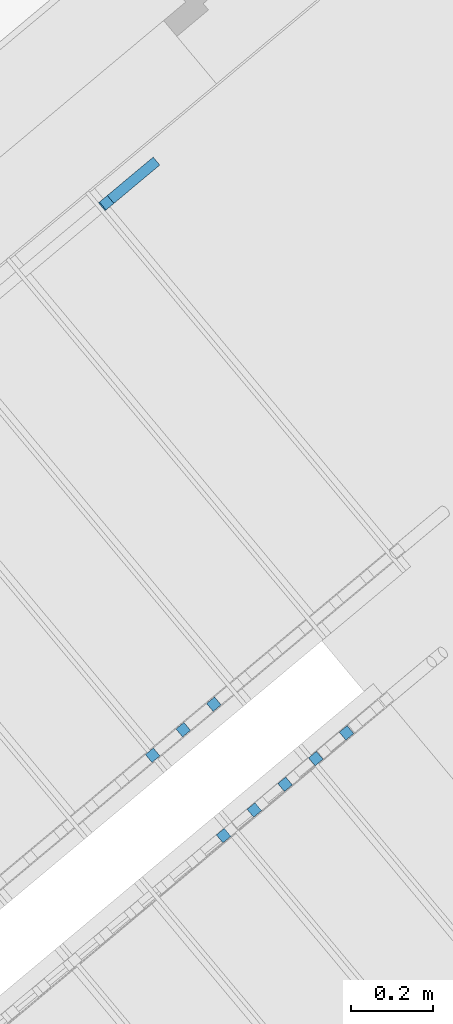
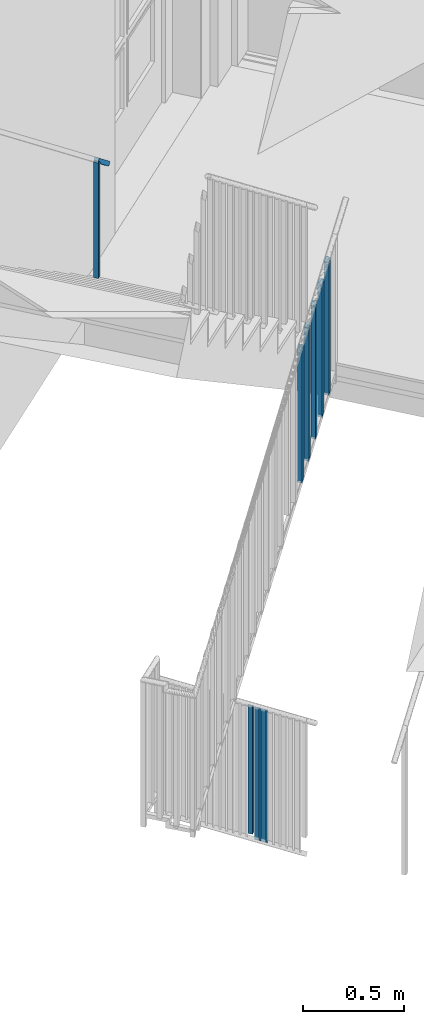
# One storey, part 63 of 75: 10 building element parts, 2 elements without a shape of their own.
"""IFC4 building model written with IfcOpenShell, lengths in metres."""

from ifc_helpers import new_model, entity, si_unit, converted_unit, derived_unit, direction, frame, origin_with_axes, place, context, subcontext, project, spatial, polygons, material, type_object, element, aggregate, save


model = new_model("IFC4")

# Units and contexts
model_context = context("Model", 3, precision=1e-05, world=origin_with_axes(), true_north=direction((0.0, 1.0)))
body_context = subcontext(model_context, "Body", "Model", "MODEL_VIEW")
ifc_project = project(units=[si_unit("LENGTHUNIT", "METRE"), si_unit("AREAUNIT", "SQUARE_METRE"), si_unit("VOLUMEUNIT", "CUBIC_METRE"), converted_unit("PLANEANGLEUNIT", "DEGREE", entity("IfcPlaneAngleMeasure", 0.0174532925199), si_unit("PLANEANGLEUNIT", "RADIAN"), dimensions=[0, 0, 0, 0, 0, 0, 0]), converted_unit("TIMEUNIT", "Year", entity("IfcTimeMeasure", 31556926.0), si_unit("TIMEUNIT", "SECOND"), dimensions=[0, 0, 1, 0, 0, 0, 0]), si_unit("MASSUNIT", "GRAM", prefix="KILO"), si_unit("THERMODYNAMICTEMPERATUREUNIT", "DEGREE_CELSIUS"), si_unit("LUMINOUSINTENSITYUNIT", "LUMEN"), si_unit("ENERGYUNIT", "JOULE", prefix="MEGA"), derived_unit("THERMALCONDUCTANCEUNIT", [(si_unit("POWERUNIT", "WATT"), 1), (si_unit("LENGTHUNIT", "METRE"), -1), (si_unit("THERMODYNAMICTEMPERATUREUNIT", "KELVIN"), -1)]), derived_unit("SPECIFICHEATCAPACITYUNIT", [(si_unit("ENERGYUNIT", "JOULE"), 1), (si_unit("MASSUNIT", "GRAM", prefix="KILO"), -1), (si_unit("THERMODYNAMICTEMPERATUREUNIT", "KELVIN"), -1)]), derived_unit("MASSDENSITYUNIT", [(si_unit("MASSUNIT", "GRAM", prefix="KILO"), 1), (si_unit("VOLUMEUNIT", "CUBIC_METRE"), -1)])], contexts=[model_context])

# Site, building, storey, space
site_placement = place(None, frame((-0.00153261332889, -0.00661245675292, 0.0), z_axis=(0.0, 0.0, 1.0), x_axis=(1.0, 0.0, 0.0)))
site = spatial("IfcSite", under=ifc_project, at=site_placement, Name="Gelände", CompositionType="ELEMENT")
building_placement = place(site_placement, origin_with_axes())
building = spatial("IfcBuilding", under=site, at=building_placement, Name="Gebäude", CompositionType="ELEMENT")
storey_placement = place(building_placement, frame((0.0, 0.0, -0.22), z_axis=(0.0, 0.0, 1.0), x_axis=(1.0, 0.0, 0.0)))
storey = spatial("IfcBuildingStorey", under=building, at=storey_placement, Name="EG", CompositionType="ELEMENT", Elevation=-0.22)
space_placement = place(storey_placement, frame((-1.16508896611, 24.7530172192, 0.22), z_axis=(0.0, 0.0, 1.0), x_axis=(0.641170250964, -0.76739866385, 0.0)))
space = spatial("IfcSpace", under=storey, at=space_placement, CompositionType="ELEMENT", PredefinedType="NOTDEFINED")

# Railing, building element parts
railing_type = type_object("IfcRailingType", Name="Geländerart", PredefinedType="NOTDEFINED")
railing_1_placement = place(space_placement, frame((-0.00446565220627, -2.37996111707e-09, -0.17), z_axis=(0.0, 0.0, 1.0), x_axis=(0.641170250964, 0.76739866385, 0.0)))
railing_1 = element("IfcRailing", 1, at=railing_1_placement, inside=space, type_object=railing_type, Name="Geländer - 001", PredefinedType="NOTDEFINED")
ifc_material = material(Name="BEKLEIDUNG")
building_element_part_1_placement = place(railing_1_placement, origin_with_axes())
building_element_part_1 = element("IfcBuildingElementPart", 2, at=building_element_part_1_placement, material=ifc_material, Name="BEKLEIDUNG", PredefinedType="NOTDEFINED", context=body_context, shape_type="Tessellation", body=[
    polygons([(0.0144514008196, -0.0367920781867, 0.177058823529), (0.0304806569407, -0.0559770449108, 0.177058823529), (0.0304806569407, -0.0559770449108, 0.88977053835), (0.0144514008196, -0.0367920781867, 0.88977053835), (0.0336363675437, -0.0207628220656, 0.177058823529), (0.0496656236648, -0.0399477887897, 0.177058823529), (0.0496656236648, -0.0399477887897, 0.87022946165), (0.0336363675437, -0.0207628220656, 0.87022946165)], [[[1, 2, 3, 4]], [[1, 5, 6, 2]], [[2, 6, 7, 3]], [[4, 3, 7, 8]], [[5, 1, 4, 8]], [[6, 5, 8, 7]]], closed=True),
])
building_element_part_2_placement = place(railing_1_placement, origin_with_axes())
building_element_part_2 = element("IfcBuildingElementPart", 3, at=building_element_part_2_placement, material=ifc_material, Name="BEKLEIDUNG", PredefinedType="NOTDEFINED", context=body_context, shape_type="Tessellation", body=[
    polygons([(0.0400731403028, -0.0479624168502, 0.9), (0.0282583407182, -0.0578338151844, 0.880303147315), (0.149181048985, 0.0431984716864, 0.757135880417), (0.16099584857, 0.0530698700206, 0.776832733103), (0.0240438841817, -0.0287774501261, 0.9), (0.0122290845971, -0.0386488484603, 0.880303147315), (0.133151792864, 0.0623834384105, 0.757135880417), (0.144966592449, 0.0722548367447, 0.776832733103)], [[[1, 2, 3, 4]], [[1, 5, 6, 2]], [[2, 6, 7, 3]], [[4, 3, 7, 8]], [[5, 1, 4, 8]], [[6, 5, 8, 7]]], closed=True),
])
aggregate(railing_1, [building_element_part_1, building_element_part_2])

railing_2_placement = place(space_placement, frame((1.1955343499, 0.255237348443, -3.3), z_axis=(0.0, 0.0, 1.0), x_axis=(0.641170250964, 0.76739866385, 0.0)))
railing_2 = element("IfcRailing", 4, at=railing_2_placement, inside=space, type_object=railing_type, Name="Geländer - 001", PredefinedType="NOTDEFINED")
building_element_part_3_placement = place(railing_2_placement, origin_with_axes())
building_element_part_3 = element("IfcBuildingElementPart", 5, at=building_element_part_3_placement, material=ifc_material, Name="BEKLEIDUNG", PredefinedType="NOTDEFINED", context=body_context, shape_type="Tessellation", body=[
    polygons([(-0.690801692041, -0.495728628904, 0.531116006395), (-0.67477243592, -0.514913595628, 0.531116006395), (-0.67477243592, -0.514913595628, 1.3386160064), (-0.690801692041, -0.495728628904, 1.3386160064), (-0.671616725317, -0.479699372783, 0.511667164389), (-0.655587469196, -0.498884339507, 0.511667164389), (-0.655587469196, -0.498884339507, 1.31916716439), (-0.671616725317, -0.479699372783, 1.31916716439)], [[[1, 2, 3, 4]], [[1, 5, 6, 2]], [[2, 6, 7, 3]], [[4, 3, 7, 8]], [[5, 1, 4, 8]], [[6, 5, 8, 7]]], closed=True),
])
building_element_part_4_placement = place(railing_2_placement, origin_with_axes())
building_element_part_4 = element("IfcBuildingElementPart", 6, at=building_element_part_4_placement, material=ifc_material, Name="BEKLEIDUNG", PredefinedType="NOTDEFINED", context=body_context, shape_type="Tessellation", body=[
    polygons([(-0.765012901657, -0.557732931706, 0.606347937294), (-0.748983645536, -0.57691789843, 0.606347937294), (-0.748983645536, -0.57691789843, 1.41384793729), (-0.765012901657, -0.557732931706, 1.41384793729), (-0.745827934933, -0.541703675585, 0.586899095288), (-0.729798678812, -0.560888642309, 0.586899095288), (-0.729798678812, -0.560888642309, 1.39439909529), (-0.745827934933, -0.541703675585, 1.39439909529)], [[[1, 2, 3, 4]], [[1, 5, 6, 2]], [[2, 6, 7, 3]], [[4, 3, 7, 8]], [[5, 1, 4, 8]], [[6, 5, 8, 7]]], closed=True),
])
building_element_part_5_placement = place(railing_2_placement, origin_with_axes())
building_element_part_5 = element("IfcBuildingElementPart", 7, at=building_element_part_5_placement, material=ifc_material, Name="BEKLEIDUNG", PredefinedType="NOTDEFINED", context=body_context, shape_type="Tessellation", body=[
    polygons([(-0.839224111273, -0.619737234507, 0.706666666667), (-0.823194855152, -0.638922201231, 0.706666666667), (-0.823194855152, -0.638922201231, 1.49157986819), (-0.839224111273, -0.619737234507, 1.49157986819), (-0.820039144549, -0.603707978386, 0.706666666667), (-0.804009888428, -0.62289294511, 0.706666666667), (-0.804009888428, -0.62289294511, 1.47213102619), (-0.820039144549, -0.603707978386, 1.47213102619)], [[[1, 2, 3, 4]], [[1, 5, 6, 2]], [[2, 6, 7, 3]], [[4, 3, 7, 8]], [[5, 1, 4, 8]], [[6, 5, 8, 7]]], closed=True),
])
building_element_part_6_placement = place(railing_2_placement, origin_with_axes())
building_element_part_6 = element("IfcBuildingElementPart", 8, at=building_element_part_6_placement, material=ifc_material, Name="BEKLEIDUNG", PredefinedType="NOTDEFINED", context=body_context, shape_type="Tessellation", body=[
    polygons([(-0.631951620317, -0.817780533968, 2.91391479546), (-0.647981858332, -0.79859638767, 2.91391479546), (-0.647981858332, -0.79859638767, 3.72141479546), (-0.631951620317, -0.817780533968, 3.72141479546), (-0.651135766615, -0.833810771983, 2.89616005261), (-0.66716600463, -0.814626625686, 2.89616005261), (-0.66716600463, -0.814626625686, 3.70366005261), (-0.651135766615, -0.833810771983, 3.70366005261)], [[[1, 2, 3, 4]], [[1, 5, 6, 2]], [[2, 6, 7, 3]], [[4, 3, 7, 8]], [[5, 1, 4, 8]], [[6, 5, 8, 7]]], closed=True),
])
building_element_part_7_placement = place(railing_2_placement, origin_with_axes())
building_element_part_7 = element("IfcBuildingElementPart", 9, at=building_element_part_7_placement, material=ifc_material, Name="BEKLEIDUNG", PredefinedType="NOTDEFINED", context=body_context, shape_type="Tessellation", body=[
    polygons([(-0.557404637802, -0.755489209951, 2.98290731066), (-0.573434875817, -0.736305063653, 2.98290731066), (-0.573434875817, -0.736305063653, 3.79040731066), (-0.557404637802, -0.755489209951, 3.79040731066), (-0.5765887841, -0.771519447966, 2.96515256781), (-0.592619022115, -0.752335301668, 2.96515256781), (-0.592619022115, -0.752335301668, 3.77265256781), (-0.5765887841, -0.771519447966, 3.77265256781)], [[[1, 2, 3, 4]], [[1, 5, 6, 2]], [[2, 6, 7, 3]], [[4, 3, 7, 8]], [[5, 1, 4, 8]], [[6, 5, 8, 7]]], closed=True),
])
building_element_part_8_placement = place(railing_2_placement, origin_with_axes())
building_element_part_8 = element("IfcBuildingElementPart", 10, at=building_element_part_8_placement, material=ifc_material, Name="BEKLEIDUNG", PredefinedType="NOTDEFINED", context=body_context, shape_type="Tessellation", body=[
    polygons([(-0.482857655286, -0.693197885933, 3.05189982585), (-0.498887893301, -0.674013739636, 3.05189982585), (-0.498887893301, -0.674013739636, 3.85939982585), (-0.482857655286, -0.693197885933, 3.85939982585), (-0.502041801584, -0.709228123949, 3.034145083), (-0.518072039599, -0.690043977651, 3.034145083), (-0.518072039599, -0.690043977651, 3.841645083), (-0.502041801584, -0.709228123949, 3.841645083)], [[[1, 2, 3, 4]], [[1, 5, 6, 2]], [[2, 6, 7, 3]], [[4, 3, 7, 8]], [[5, 1, 4, 8]], [[6, 5, 8, 7]]], closed=True),
])
building_element_part_9_placement = place(railing_2_placement, origin_with_axes())
building_element_part_9 = element("IfcBuildingElementPart", 11, at=building_element_part_9_placement, material=ifc_material, Name="BEKLEIDUNG", PredefinedType="NOTDEFINED", context=body_context, shape_type="Tessellation", body=[
    polygons([(-0.408310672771, -0.630906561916, 3.12089234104), (-0.424340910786, -0.611722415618, 3.12089234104), (-0.424340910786, -0.611722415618, 3.92839234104), (-0.408310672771, -0.630906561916, 3.92839234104), (-0.427494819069, -0.646936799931, 3.10313759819), (-0.443525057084, -0.627752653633, 3.10313759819), (-0.443525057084, -0.627752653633, 3.91063759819), (-0.427494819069, -0.646936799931, 3.91063759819)], [[[1, 2, 3, 4]], [[1, 5, 6, 2]], [[2, 6, 7, 3]], [[4, 3, 7, 8]], [[5, 1, 4, 8]], [[6, 5, 8, 7]]], closed=True),
])
building_element_part_10_placement = place(railing_2_placement, origin_with_axes())
building_element_part_10 = element("IfcBuildingElementPart", 12, at=building_element_part_10_placement, material=ifc_material, Name="BEKLEIDUNG", PredefinedType="NOTDEFINED", context=body_context, shape_type="Tessellation", body=[
    polygons([(-0.333763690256, -0.568615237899, 3.18988485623), (-0.349793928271, -0.549431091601, 3.18988485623), (-0.349793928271, -0.549431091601, 3.99738485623), (-0.333763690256, -0.568615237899, 3.99738485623), (-0.352947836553, -0.584645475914, 3.17213011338), (-0.368978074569, -0.565461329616, 3.17213011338), (-0.368978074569, -0.565461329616, 3.97963011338), (-0.352947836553, -0.584645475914, 3.97963011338)], [[[1, 2, 3, 4]], [[1, 5, 6, 2]], [[2, 6, 7, 3]], [[4, 3, 7, 8]], [[5, 1, 4, 8]], [[6, 5, 8, 7]]], closed=True),
])
aggregate(railing_2, [building_element_part_3, building_element_part_4, building_element_part_5, building_element_part_6, building_element_part_7, building_element_part_8, building_element_part_9, building_element_part_10])

save(model, "model.ifc")
